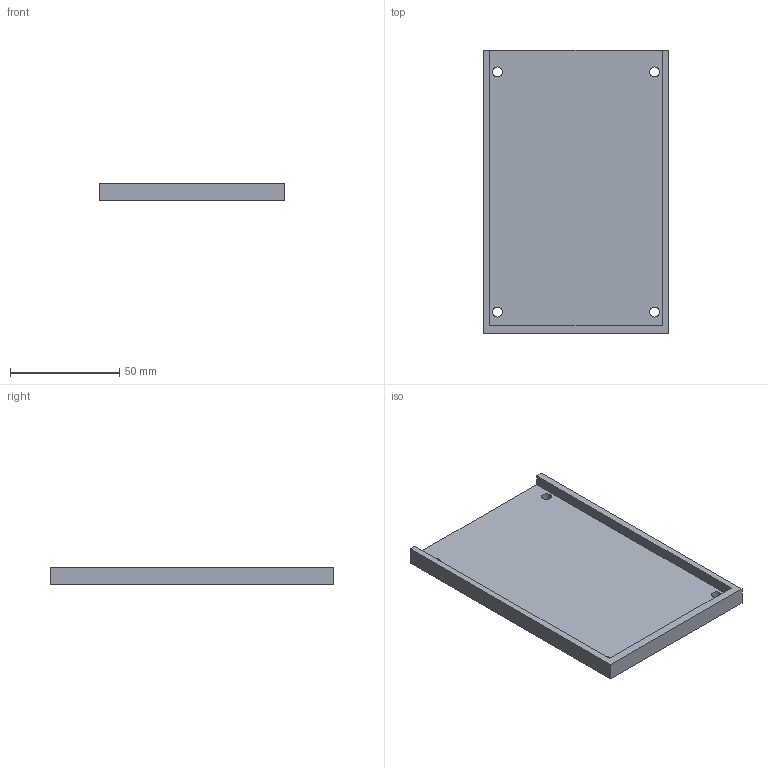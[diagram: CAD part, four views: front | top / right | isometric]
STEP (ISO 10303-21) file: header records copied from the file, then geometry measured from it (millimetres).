
FILE_DESCRIPTION(('Open CASCADE Model'),'2;1');
FILE_NAME('Open CASCADE Shape Model','2026-10-06T19:56:08',('Author'),( 'Open CASCADE'),'Open CASCADE STEP processor 7.9','Open CASCADE 7.9' ,'Unknown');
FILE_SCHEMA(('AUTOMOTIVE_DESIGN { 1 0 10303 214 1 1 1 1 }'));
Length unit declared in the file: millimetre
Products named in the file (1): Open CASCADE STEP translator 7.9 11
Bounding box: 85 x 130 x 8 mm (x, y, z)
Volume: 38439.1 mm3; surface area: 26842.4 mm2
Topology: 1 solids, 1 shells, 14 faces, 36 edges, 24 vertices
Faces by surface type: plane 10, cylinder 4
Full cylindrical faces by diameter (mm): 4.5 x4
Entity records: 922 total; most frequent: CARTESIAN_POINT 183, DIRECTION 130, LINE 80, VECTOR 80, ORIENTED_EDGE 72, PCURVE 72, DEFINITIONAL_REPRESENTATION 72, EDGE_CURVE 36
